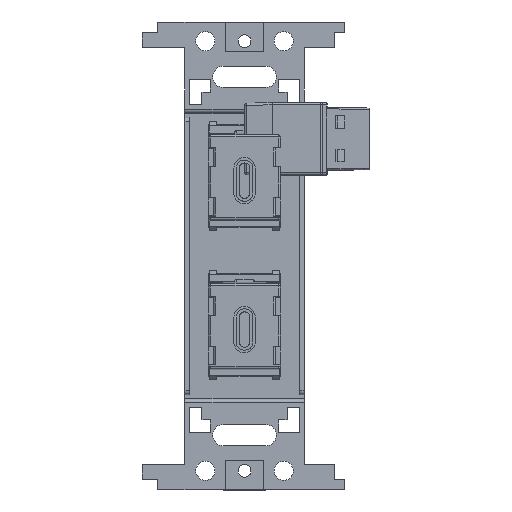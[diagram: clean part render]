
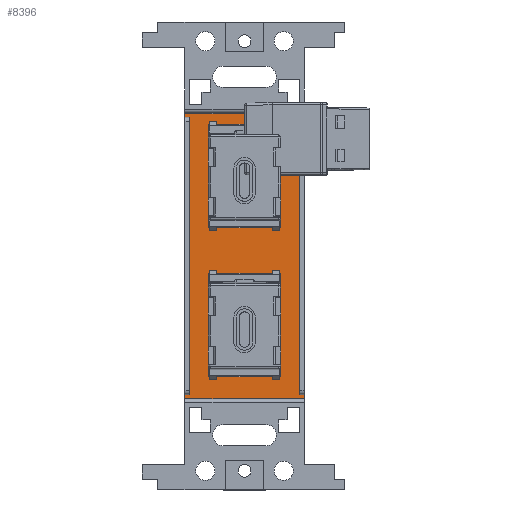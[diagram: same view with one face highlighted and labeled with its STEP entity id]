
A CAD part, top view. The second image highlights one B-rep face of the part: STEP entity #8396.
In plain terms, the highlighted planar face has unit normal (0, 0, 1).
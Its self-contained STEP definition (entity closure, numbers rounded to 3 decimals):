
#8139 = VERTEX_POINT('',#8140);
#8140 = CARTESIAN_POINT('',(-14.,33.5,1.));
#8273 = VERTEX_POINT('',#8274);
#8274 = CARTESIAN_POINT('',(-14.,-33.5,1.));
#8280 = EDGE_CURVE('',#8281,#8273,#8283,.T.);
#8281 = VERTEX_POINT('',#8282);
#8282 = CARTESIAN_POINT('',(-14.,-32.6,1.));
#8283 = LINE('',#8284,#8285);
#8284 = CARTESIAN_POINT('',(-14.,34.5,1.));
#8285 = VECTOR('',#8286,1.);
#8286 = DIRECTION('',(0.,-1.,0.));
#8323 = VERTEX_POINT('',#8324);
#8324 = CARTESIAN_POINT('',(-14.,32.6,1.));
#8330 = EDGE_CURVE('',#8139,#8323,#8331,.T.);
#8331 = LINE('',#8332,#8333);
#8332 = CARTESIAN_POINT('',(-14.,34.5,1.));
#8333 = VECTOR('',#8334,1.);
#8334 = DIRECTION('',(0.,-1.,0.));
#8354 = VERTEX_POINT('',#8355);
#8355 = CARTESIAN_POINT('',(14.,33.5,1.));
#8361 = EDGE_CURVE('',#8139,#8354,#8362,.T.);
#8362 = LINE('',#8363,#8364);
#8363 = CARTESIAN_POINT('',(-14.,33.5,1.));
#8364 = VECTOR('',#8365,1.);
#8365 = DIRECTION('',(1.,0.,0.));
#8396 = ADVANCED_FACE('',(#8397,#8470,#8504),#8538,.T.);
#8397 = FACE_BOUND('',#8398,.T.);
#8398 = EDGE_LOOP('',(#8399,#8407,#8408,#8416,#8424,#8432,#8440,#8448,
    #8454,#8455,#8456,#8464));
#8399 = ORIENTED_EDGE('',*,*,#8400,.F.);
#8400 = EDGE_CURVE('',#8281,#8401,#8403,.T.);
#8401 = VERTEX_POINT('',#8402);
#8402 = CARTESIAN_POINT('',(-13.,-32.6,1.));
#8403 = LINE('',#8404,#8405);
#8404 = CARTESIAN_POINT('',(-14.,-32.6,1.));
#8405 = VECTOR('',#8406,1.);
#8406 = DIRECTION('',(1.,0.,0.));
#8407 = ORIENTED_EDGE('',*,*,#8280,.T.);
#8408 = ORIENTED_EDGE('',*,*,#8409,.F.);
#8409 = EDGE_CURVE('',#8410,#8273,#8412,.T.);
#8410 = VERTEX_POINT('',#8411);
#8411 = CARTESIAN_POINT('',(14.,-33.5,1.));
#8412 = LINE('',#8413,#8414);
#8413 = CARTESIAN_POINT('',(14.,-33.5,1.));
#8414 = VECTOR('',#8415,1.);
#8415 = DIRECTION('',(-1.,0.,0.));
#8416 = ORIENTED_EDGE('',*,*,#8417,.T.);
#8417 = EDGE_CURVE('',#8410,#8418,#8420,.T.);
#8418 = VERTEX_POINT('',#8419);
#8419 = CARTESIAN_POINT('',(14.,-32.6,1.));
#8420 = LINE('',#8421,#8422);
#8421 = CARTESIAN_POINT('',(14.,-34.5,1.));
#8422 = VECTOR('',#8423,1.);
#8423 = DIRECTION('',(0.,1.,0.));
#8424 = ORIENTED_EDGE('',*,*,#8425,.F.);
#8425 = EDGE_CURVE('',#8426,#8418,#8428,.T.);
#8426 = VERTEX_POINT('',#8427);
#8427 = CARTESIAN_POINT('',(13.,-32.6,1.));
#8428 = LINE('',#8429,#8430);
#8429 = CARTESIAN_POINT('',(13.,-32.6,1.));
#8430 = VECTOR('',#8431,1.);
#8431 = DIRECTION('',(1.,0.,0.));
#8432 = ORIENTED_EDGE('',*,*,#8433,.F.);
#8433 = EDGE_CURVE('',#8434,#8426,#8436,.T.);
#8434 = VERTEX_POINT('',#8435);
#8435 = CARTESIAN_POINT('',(13.,32.6,1.));
#8436 = LINE('',#8437,#8438);
#8437 = CARTESIAN_POINT('',(13.,32.6,1.));
#8438 = VECTOR('',#8439,1.);
#8439 = DIRECTION('',(0.,-1.,0.));
#8440 = ORIENTED_EDGE('',*,*,#8441,.F.);
#8441 = EDGE_CURVE('',#8442,#8434,#8444,.T.);
#8442 = VERTEX_POINT('',#8443);
#8443 = CARTESIAN_POINT('',(14.,32.6,1.));
#8444 = LINE('',#8445,#8446);
#8445 = CARTESIAN_POINT('',(14.,32.6,1.));
#8446 = VECTOR('',#8447,1.);
#8447 = DIRECTION('',(-1.,0.,0.));
#8448 = ORIENTED_EDGE('',*,*,#8449,.T.);
#8449 = EDGE_CURVE('',#8442,#8354,#8450,.T.);
#8450 = LINE('',#8451,#8452);
#8451 = CARTESIAN_POINT('',(14.,-34.5,1.));
#8452 = VECTOR('',#8453,1.);
#8453 = DIRECTION('',(0.,1.,0.));
#8454 = ORIENTED_EDGE('',*,*,#8361,.F.);
#8455 = ORIENTED_EDGE('',*,*,#8330,.T.);
#8456 = ORIENTED_EDGE('',*,*,#8457,.F.);
#8457 = EDGE_CURVE('',#8458,#8323,#8460,.T.);
#8458 = VERTEX_POINT('',#8459);
#8459 = CARTESIAN_POINT('',(-13.,32.6,1.));
#8460 = LINE('',#8461,#8462);
#8461 = CARTESIAN_POINT('',(-13.,32.6,1.));
#8462 = VECTOR('',#8463,1.);
#8463 = DIRECTION('',(-1.,0.,0.));
#8464 = ORIENTED_EDGE('',*,*,#8465,.F.);
#8465 = EDGE_CURVE('',#8401,#8458,#8466,.T.);
#8466 = LINE('',#8467,#8468);
#8467 = CARTESIAN_POINT('',(-13.,-32.6,1.));
#8468 = VECTOR('',#8469,1.);
#8469 = DIRECTION('',(0.,1.,0.));
#8470 = FACE_BOUND('',#8471,.T.);
#8471 = EDGE_LOOP('',(#8472,#8482,#8490,#8498));
#8472 = ORIENTED_EDGE('',*,*,#8473,.F.);
#8473 = EDGE_CURVE('',#8474,#8476,#8478,.T.);
#8474 = VERTEX_POINT('',#8475);
#8475 = CARTESIAN_POINT('',(8.4,-4.05,1.));
#8476 = VERTEX_POINT('',#8477);
#8477 = CARTESIAN_POINT('',(-8.4,-4.05,1.));
#8478 = LINE('',#8479,#8480);
#8479 = CARTESIAN_POINT('',(-4.2,-4.05,1.));
#8480 = VECTOR('',#8481,1.);
#8481 = DIRECTION('',(-1.,0.,0.));
#8482 = ORIENTED_EDGE('',*,*,#8483,.F.);
#8483 = EDGE_CURVE('',#8484,#8474,#8486,.T.);
#8484 = VERTEX_POINT('',#8485);
#8485 = CARTESIAN_POINT('',(8.4,-28.35,1.));
#8486 = LINE('',#8487,#8488);
#8487 = CARTESIAN_POINT('',(8.4,-2.025,1.));
#8488 = VECTOR('',#8489,1.);
#8489 = DIRECTION('',(0.,1.,0.));
#8490 = ORIENTED_EDGE('',*,*,#8491,.F.);
#8491 = EDGE_CURVE('',#8492,#8484,#8494,.T.);
#8492 = VERTEX_POINT('',#8493);
#8493 = CARTESIAN_POINT('',(-8.4,-28.35,1.));
#8494 = LINE('',#8495,#8496);
#8495 = CARTESIAN_POINT('',(4.2,-28.35,1.));
#8496 = VECTOR('',#8497,1.);
#8497 = DIRECTION('',(1.,0.,0.));
#8498 = ORIENTED_EDGE('',*,*,#8499,.F.);
#8499 = EDGE_CURVE('',#8476,#8492,#8500,.T.);
#8500 = LINE('',#8501,#8502);
#8501 = CARTESIAN_POINT('',(-8.4,-14.175,1.));
#8502 = VECTOR('',#8503,1.);
#8503 = DIRECTION('',(0.,-1.,0.));
#8504 = FACE_BOUND('',#8505,.T.);
#8505 = EDGE_LOOP('',(#8506,#8516,#8524,#8532));
#8506 = ORIENTED_EDGE('',*,*,#8507,.F.);
#8507 = EDGE_CURVE('',#8508,#8510,#8512,.T.);
#8508 = VERTEX_POINT('',#8509);
#8509 = CARTESIAN_POINT('',(8.4,30.95,1.));
#8510 = VERTEX_POINT('',#8511);
#8511 = CARTESIAN_POINT('',(-8.4,30.95,1.));
#8512 = LINE('',#8513,#8514);
#8513 = CARTESIAN_POINT('',(-4.2,30.95,1.));
#8514 = VECTOR('',#8515,1.);
#8515 = DIRECTION('',(-1.,0.,0.));
#8516 = ORIENTED_EDGE('',*,*,#8517,.F.);
#8517 = EDGE_CURVE('',#8518,#8508,#8520,.T.);
#8518 = VERTEX_POINT('',#8519);
#8519 = CARTESIAN_POINT('',(8.4,6.65,1.));
#8520 = LINE('',#8521,#8522);
#8521 = CARTESIAN_POINT('',(8.4,15.475,1.));
#8522 = VECTOR('',#8523,1.);
#8523 = DIRECTION('',(0.,1.,0.));
#8524 = ORIENTED_EDGE('',*,*,#8525,.F.);
#8525 = EDGE_CURVE('',#8526,#8518,#8528,.T.);
#8526 = VERTEX_POINT('',#8527);
#8527 = CARTESIAN_POINT('',(-8.4,6.65,1.));
#8528 = LINE('',#8529,#8530);
#8529 = CARTESIAN_POINT('',(4.2,6.65,1.));
#8530 = VECTOR('',#8531,1.);
#8531 = DIRECTION('',(1.,0.,0.));
#8532 = ORIENTED_EDGE('',*,*,#8533,.F.);
#8533 = EDGE_CURVE('',#8510,#8526,#8534,.T.);
#8534 = LINE('',#8535,#8536);
#8535 = CARTESIAN_POINT('',(-8.4,3.325,1.));
#8536 = VECTOR('',#8537,1.);
#8537 = DIRECTION('',(0.,-1.,0.));
#8538 = PLANE('',#8539);
#8539 = AXIS2_PLACEMENT_3D('',#8540,#8541,#8542);
#8540 = CARTESIAN_POINT('',(0.,0.,1.));
#8541 = DIRECTION('',(0.,0.,1.));
#8542 = DIRECTION('',(1.,0.,-0.));
